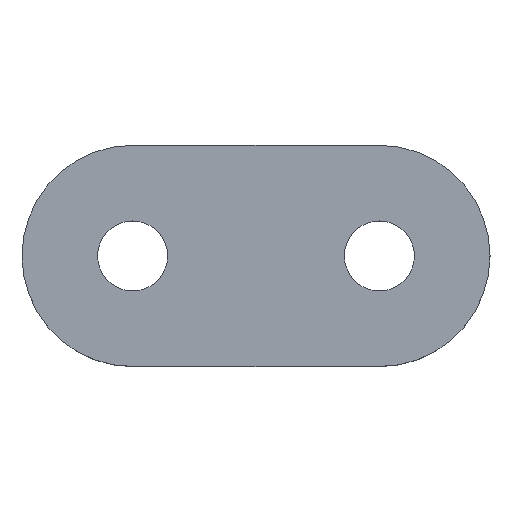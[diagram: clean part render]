
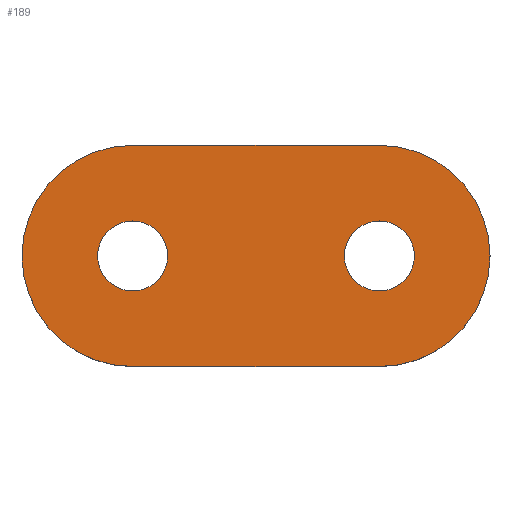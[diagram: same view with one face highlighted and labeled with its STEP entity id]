
A CAD part, top view. The second image highlights one B-rep face of the part: STEP entity #189.
In plain terms, the highlighted planar face has unit normal (0, 0, 1).
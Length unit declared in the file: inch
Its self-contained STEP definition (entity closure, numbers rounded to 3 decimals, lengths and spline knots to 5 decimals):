
#64 = AXIS2_PLACEMENT_3D ( 'NONE', #328, #327, #320 ) ;
#103 = VERTEX_POINT ( 'NONE', #302 ) ;
#109 = VECTOR ( 'NONE', #372, 39.37008 ) ;
#118 = CIRCLE ( 'NONE', #492, 0.42 ) ;
#123 = LINE ( 'NONE', #430, #124 ) ;
#124 = VECTOR ( 'NONE', #459, 39.37008 ) ;
#126 = CIRCLE ( 'NONE', #491, 0.133 ) ;
#127 = VERTEX_POINT ( 'NONE', #271 ) ;
#130 = ORIENTED_EDGE ( 'NONE', *, *, #575, .F. ) ;
#136 = CIRCLE ( 'NONE', #497, 0.42 ) ;
#139 = CIRCLE ( 'NONE', #498, 0.42 ) ;
#165 = VERTEX_POINT ( 'NONE', #276 ) ;
#183 = FACE_BOUND ( 'NONE', #289, .T. ) ;
#184 = VERTEX_POINT ( 'NONE', #246 ) ;
#189 = ADVANCED_FACE ( 'NONE', ( #183, #291, #300 ), #261, .T. ) ;
#195 = ORIENTED_EDGE ( 'NONE', *, *, #428, .T. ) ;
#212 = ORIENTED_EDGE ( 'NONE', *, *, #374, .F. ) ;
#213 = DIRECTION ( 'NONE',  ( 1., 0., 0. ) ) ;
#217 = DIRECTION ( 'NONE',  ( 0., 0., 1. ) ) ;
#219 = CARTESIAN_POINT ( 'NONE',  ( 0., 0., 0.18 ) ) ;
#242 = ORIENTED_EDGE ( 'NONE', *, *, #382, .T. ) ;
#246 = CARTESIAN_POINT ( 'NONE',  ( 0.4455, 0., 0.18 ) ) ;
#254 = ORIENTED_EDGE ( 'NONE', *, *, #449, .T. ) ;
#260 = LINE ( 'NONE', #377, #109 ) ;
#261 = PLANE ( 'NONE',  #563 ) ;
#264 = DIRECTION ( 'NONE',  ( 1., 0., 0. ) ) ;
#265 = EDGE_LOOP ( 'NONE', ( #346, #576, #254, #322, #379 ) ) ;
#268 = EDGE_LOOP ( 'NONE', ( #195, #242 ) ) ;
#269 = DIRECTION ( 'NONE',  ( 0., 0., -1. ) ) ;
#271 = CARTESIAN_POINT ( 'NONE',  ( 0.3125, 0.42, 0.18 ) ) ;
#273 = CARTESIAN_POINT ( 'NONE',  ( -0.625, 0., 0.18 ) ) ;
#276 = CARTESIAN_POINT ( 'NONE',  ( 0.7325, 0., 0.18 ) ) ;
#282 = VERTEX_POINT ( 'NONE', #396 ) ;
#289 = EDGE_LOOP ( 'NONE', ( #212, #130 ) ) ;
#291 = FACE_BOUND ( 'NONE', #268, .T. ) ;
#293 = CARTESIAN_POINT ( 'NONE',  ( -0.625, 0., 0.18 ) ) ;
#300 = FACE_OUTER_BOUND ( 'NONE', #265, .T. ) ;
#302 = CARTESIAN_POINT ( 'NONE',  ( -0.625, -0.42, 0.18 ) ) ;
#314 = VERTEX_POINT ( 'NONE', #484 ) ;
#320 = DIRECTION ( 'NONE',  ( 1., 0., 0. ) ) ;
#322 = ORIENTED_EDGE ( 'NONE', *, *, #578, .T. ) ;
#327 = DIRECTION ( 'NONE',  ( 0., 0., 1. ) ) ;
#328 = CARTESIAN_POINT ( 'NONE',  ( 0.3125, 0., 0.18 ) ) ;
#341 = CARTESIAN_POINT ( 'NONE',  ( -0.625, 0.42, 0.18 ) ) ;
#346 = ORIENTED_EDGE ( 'NONE', *, *, #465, .F. ) ;
#364 = DIRECTION ( 'NONE',  ( 1., 0., 0. ) ) ;
#368 = DIRECTION ( 'NONE',  ( 0., 0., 1. ) ) ;
#371 = CARTESIAN_POINT ( 'NONE',  ( 0.3125, 0., 0.18 ) ) ;
#372 = DIRECTION ( 'NONE',  ( -1., 0., 0. ) ) ;
#374 = EDGE_CURVE ( 'NONE', #184, #282, #435, .T. ) ;
#377 = CARTESIAN_POINT ( 'NONE',  ( 0., 0.42, 0.18 ) ) ;
#378 = VERTEX_POINT ( 'NONE', #392 ) ;
#379 = ORIENTED_EDGE ( 'NONE', *, *, #462, .T. ) ;
#380 = VERTEX_POINT ( 'NONE', #341 ) ;
#382 = EDGE_CURVE ( 'NONE', #417, #314, #389, .T. ) ;
#385 = DIRECTION ( 'NONE',  ( 1., 0., 0. ) ) ;
#387 = DIRECTION ( 'NONE',  ( 0., 0., 1. ) ) ;
#389 = CIRCLE ( 'NONE', #506, 0.133 ) ;
#391 = CARTESIAN_POINT ( 'NONE',  ( 0.3125, 0., 0.18 ) ) ;
#392 = CARTESIAN_POINT ( 'NONE',  ( 0.3125, -0.42, 0.18 ) ) ;
#396 = CARTESIAN_POINT ( 'NONE',  ( 0.1795, 0., 0.18 ) ) ;
#417 = VERTEX_POINT ( 'NONE', #584 ) ;
#419 = DIRECTION ( 'NONE',  ( 1., 0., 0. ) ) ;
#423 = DIRECTION ( 'NONE',  ( 0., 0., 1. ) ) ;
#426 = CARTESIAN_POINT ( 'NONE',  ( -0.625, 0., 0.18 ) ) ;
#428 = EDGE_CURVE ( 'NONE', #314, #417, #447, .T. ) ;
#430 = CARTESIAN_POINT ( 'NONE',  ( 0., -0.42, 0.18 ) ) ;
#431 = DIRECTION ( 'NONE',  ( 1., 0., 0. ) ) ;
#435 = CIRCLE ( 'NONE', #64, 0.133 ) ;
#437 = DIRECTION ( 'NONE',  ( 0., 0., 1. ) ) ;
#439 = CARTESIAN_POINT ( 'NONE',  ( 0.3125, 0., 0.18 ) ) ;
#447 = CIRCLE ( 'NONE', #499, 0.133 ) ;
#449 = EDGE_CURVE ( 'NONE', #165, #127, #139, .T. ) ;
#458 = DIRECTION ( 'NONE',  ( 0., 0., -1. ) ) ;
#459 = DIRECTION ( 'NONE',  ( -1., 0., 0. ) ) ;
#462 = EDGE_CURVE ( 'NONE', #380, #103, #136, .T. ) ;
#465 = EDGE_CURVE ( 'NONE', #378, #103, #123, .T. ) ;
#484 = CARTESIAN_POINT ( 'NONE',  ( -0.492, 0., 0.18 ) ) ;
#491 = AXIS2_PLACEMENT_3D ( 'NONE', #371, #368, #364 ) ;
#492 = AXIS2_PLACEMENT_3D ( 'NONE', #391, #387, #385 ) ;
#497 = AXIS2_PLACEMENT_3D ( 'NONE', #426, #423, #419 ) ;
#498 = AXIS2_PLACEMENT_3D ( 'NONE', #439, #437, #431 ) ;
#499 = AXIS2_PLACEMENT_3D ( 'NONE', #293, #458, #574 ) ;
#506 = AXIS2_PLACEMENT_3D ( 'NONE', #273, #269, #264 ) ;
#563 = AXIS2_PLACEMENT_3D ( 'NONE', #219, #217, #213 ) ;
#570 = EDGE_CURVE ( 'NONE', #378, #165, #118, .T. ) ;
#574 = DIRECTION ( 'NONE',  ( 1., 0., 0. ) ) ;
#575 = EDGE_CURVE ( 'NONE', #282, #184, #126, .T. ) ;
#576 = ORIENTED_EDGE ( 'NONE', *, *, #570, .T. ) ;
#578 = EDGE_CURVE ( 'NONE', #127, #380, #260, .T. ) ;
#584 = CARTESIAN_POINT ( 'NONE',  ( -0.758, 0., 0.18 ) ) ;
